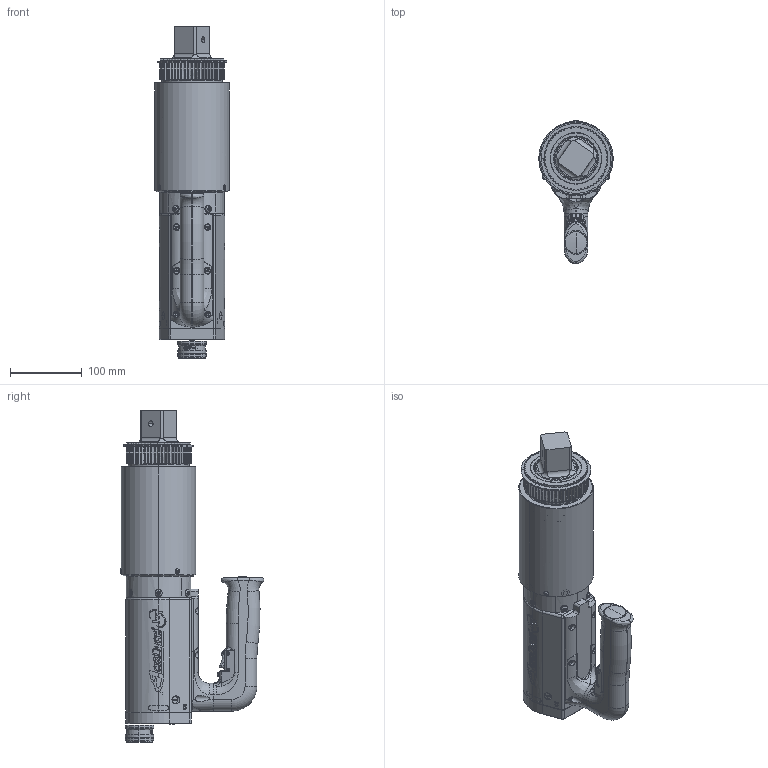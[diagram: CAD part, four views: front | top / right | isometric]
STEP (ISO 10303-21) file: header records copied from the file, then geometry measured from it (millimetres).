
FILE_DESCRIPTION (( 'STEP AP214' ), '1' );
FILE_NAME ('AEJ4A896500B, AEJ4A898100B.STEP', '2016-04-04T20:55:14', ( 'AIMCO' ), ( '' ), 'SwSTEP 2.0', 'SolidWorks 2016', '' );
FILE_SCHEMA (( 'AUTOMOTIVE_DESIGN' ));
Length unit declared in the file: inch
Products named in the file (1): AEJ4A896500B, AEJ4A898100B
Bounding box: 103.78 x 200.64 x 463.24 mm (x, y, z)
Surface area: 343461.5 mm2 (no closed solid volume)
Topology: 0 solids, 92 shells, 1307 faces, 4649 edges, 3243 vertices
Faces by surface type: cylinder 510, plane 322, bspline 233, torus 133, cone 99, sphere 10
Entity records: 142501 total; most frequent: CARTESIAN_POINT 89305, ORIENTED_EDGE 7153, DIRECTION 6979, EDGE_CURVE 4637, VERTEX_POINT 3241, AXIS2_PLACEMENT_3D 2692, CIRCLE 1617, LINE 1595
